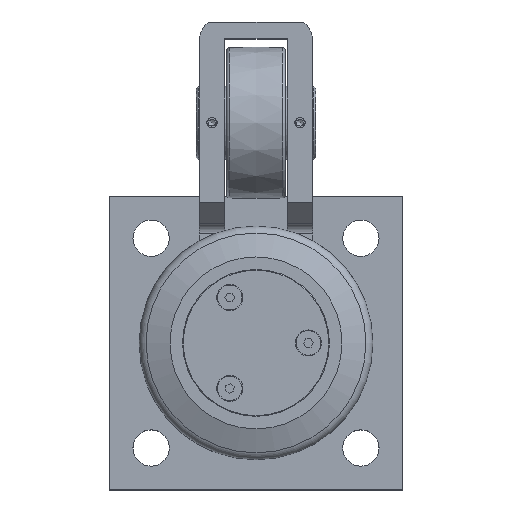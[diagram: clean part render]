
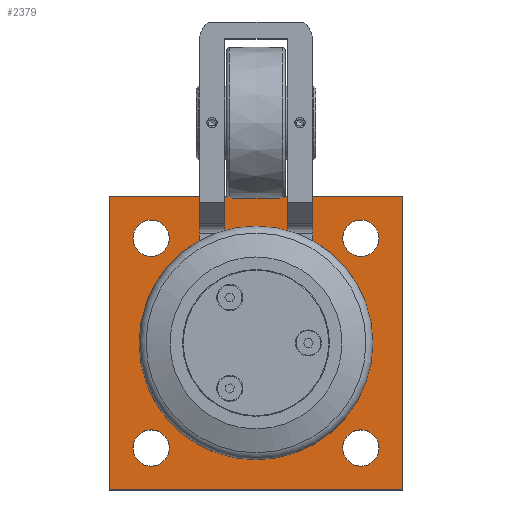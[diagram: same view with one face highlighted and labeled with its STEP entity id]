
A CAD part, top view. The second image highlights one B-rep face of the part: STEP entity #2379.
In plain terms, the highlighted planar face has unit normal (0, 0, 1).
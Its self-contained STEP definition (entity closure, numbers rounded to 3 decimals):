
#166=LINE('',#4013,#367);
#186=LINE('',#4067,#387);
#193=LINE('',#4081,#394);
#194=LINE('',#4083,#395);
#195=LINE('',#4084,#396);
#196=LINE('',#4103,#397);
#197=LINE('',#4105,#398);
#198=LINE('',#4107,#399);
#199=LINE('',#4108,#400);
#200=LINE('',#4110,#401);
#201=LINE('',#4112,#402);
#202=LINE('',#4113,#403);
#367=VECTOR('',#3165,10.);
#387=VECTOR('',#3213,10.);
#394=VECTOR('',#3222,10.);
#395=VECTOR('',#3223,10.);
#396=VECTOR('',#3224,10.);
#397=VECTOR('',#3241,10.);
#398=VECTOR('',#3242,10.);
#399=VECTOR('',#3243,10.);
#400=VECTOR('',#3244,10.);
#401=VECTOR('',#3245,10.);
#402=VECTOR('',#3246,10.);
#403=VECTOR('',#3247,10.);
#495=FACE_BOUND('',#838,.T.);
#496=FACE_BOUND('',#839,.T.);
#497=FACE_BOUND('',#840,.T.);
#498=FACE_BOUND('',#841,.T.);
#499=FACE_BOUND('',#842,.T.);
#500=FACE_BOUND('',#843,.T.);
#501=FACE_BOUND('',#844,.T.);
#573=PLANE('',#2624);
#691=FACE_OUTER_BOUND('',#837,.T.);
#837=EDGE_LOOP('',(#2060,#2061,#2062,#2063));
#838=EDGE_LOOP('',(#2064,#2065));
#839=EDGE_LOOP('',(#2066,#2067));
#840=EDGE_LOOP('',(#2068,#2069));
#841=EDGE_LOOP('',(#2070,#2071));
#842=EDGE_LOOP('',(#2072,#2073,#2074,#2075));
#843=EDGE_LOOP('',(#2076,#2077,#2078,#2079));
#844=EDGE_LOOP('',(#2080));
#983=CIRCLE('',#2625,8.647);
#984=CIRCLE('',#2626,8.647);
#985=CIRCLE('',#2627,8.647);
#986=CIRCLE('',#2628,8.647);
#987=CIRCLE('',#2629,8.647);
#988=CIRCLE('',#2630,8.647);
#989=CIRCLE('',#2631,8.647);
#990=CIRCLE('',#2632,8.647);
#991=CIRCLE('',#2633,35.);
#1171=VERTEX_POINT('',#4011);
#1172=VERTEX_POINT('',#4012);
#1191=VERTEX_POINT('',#4064);
#1192=VERTEX_POINT('',#4066);
#1198=VERTEX_POINT('',#4080);
#1199=VERTEX_POINT('',#4082);
#1200=VERTEX_POINT('',#4085);
#1201=VERTEX_POINT('',#4086);
#1202=VERTEX_POINT('',#4089);
#1203=VERTEX_POINT('',#4090);
#1204=VERTEX_POINT('',#4093);
#1205=VERTEX_POINT('',#4094);
#1206=VERTEX_POINT('',#4097);
#1207=VERTEX_POINT('',#4098);
#1208=VERTEX_POINT('',#4101);
#1209=VERTEX_POINT('',#4102);
#1210=VERTEX_POINT('',#4104);
#1211=VERTEX_POINT('',#4106);
#1212=VERTEX_POINT('',#4109);
#1213=VERTEX_POINT('',#4111);
#1214=VERTEX_POINT('',#4114);
#1471=EDGE_CURVE('',#1171,#1172,#166,.T.);
#1498=EDGE_CURVE('',#1191,#1192,#186,.T.);
#1505=EDGE_CURVE('',#1198,#1191,#193,.T.);
#1506=EDGE_CURVE('',#1199,#1198,#194,.T.);
#1507=EDGE_CURVE('',#1192,#1199,#195,.T.);
#1508=EDGE_CURVE('',#1200,#1201,#983,.T.);
#1509=EDGE_CURVE('',#1201,#1200,#984,.T.);
#1510=EDGE_CURVE('',#1202,#1203,#985,.T.);
#1511=EDGE_CURVE('',#1203,#1202,#986,.T.);
#1512=EDGE_CURVE('',#1204,#1205,#987,.T.);
#1513=EDGE_CURVE('',#1205,#1204,#988,.T.);
#1514=EDGE_CURVE('',#1206,#1207,#989,.T.);
#1515=EDGE_CURVE('',#1207,#1206,#990,.T.);
#1516=EDGE_CURVE('',#1208,#1209,#196,.T.);
#1517=EDGE_CURVE('',#1209,#1210,#197,.T.);
#1518=EDGE_CURVE('',#1210,#1211,#198,.T.);
#1519=EDGE_CURVE('',#1211,#1208,#199,.T.);
#1520=EDGE_CURVE('',#1212,#1171,#200,.T.);
#1521=EDGE_CURVE('',#1172,#1213,#201,.T.);
#1522=EDGE_CURVE('',#1213,#1212,#202,.T.);
#1523=EDGE_CURVE('',#1214,#1214,#991,.T.);
#2060=ORIENTED_EDGE('',*,*,#1505,.F.);
#2061=ORIENTED_EDGE('',*,*,#1506,.F.);
#2062=ORIENTED_EDGE('',*,*,#1507,.F.);
#2063=ORIENTED_EDGE('',*,*,#1498,.F.);
#2064=ORIENTED_EDGE('',*,*,#1508,.T.);
#2065=ORIENTED_EDGE('',*,*,#1509,.T.);
#2066=ORIENTED_EDGE('',*,*,#1510,.T.);
#2067=ORIENTED_EDGE('',*,*,#1511,.T.);
#2068=ORIENTED_EDGE('',*,*,#1512,.T.);
#2069=ORIENTED_EDGE('',*,*,#1513,.T.);
#2070=ORIENTED_EDGE('',*,*,#1514,.T.);
#2071=ORIENTED_EDGE('',*,*,#1515,.T.);
#2072=ORIENTED_EDGE('',*,*,#1516,.T.);
#2073=ORIENTED_EDGE('',*,*,#1517,.T.);
#2074=ORIENTED_EDGE('',*,*,#1518,.T.);
#2075=ORIENTED_EDGE('',*,*,#1519,.T.);
#2076=ORIENTED_EDGE('',*,*,#1520,.T.);
#2077=ORIENTED_EDGE('',*,*,#1471,.T.);
#2078=ORIENTED_EDGE('',*,*,#1521,.T.);
#2079=ORIENTED_EDGE('',*,*,#1522,.T.);
#2080=ORIENTED_EDGE('',*,*,#1523,.T.);
#2379=ADVANCED_FACE('',(#691,#495,#496,#497,#498,#499,#500,#501),#573,.T.);
#2624=AXIS2_PLACEMENT_3D('',#4079,#3220,#3221);
#2625=AXIS2_PLACEMENT_3D('',#4087,#3225,#3226);
#2626=AXIS2_PLACEMENT_3D('',#4088,#3227,#3228);
#2627=AXIS2_PLACEMENT_3D('',#4091,#3229,#3230);
#2628=AXIS2_PLACEMENT_3D('',#4092,#3231,#3232);
#2629=AXIS2_PLACEMENT_3D('',#4095,#3233,#3234);
#2630=AXIS2_PLACEMENT_3D('',#4096,#3235,#3236);
#2631=AXIS2_PLACEMENT_3D('',#4099,#3237,#3238);
#2632=AXIS2_PLACEMENT_3D('',#4100,#3239,#3240);
#2633=AXIS2_PLACEMENT_3D('',#4115,#3248,#3249);
#3165=DIRECTION('',(1.,0.,0.));
#3213=DIRECTION('',(1.,0.,0.));
#3220=DIRECTION('center_axis',(0.,0.,1.));
#3221=DIRECTION('ref_axis',(1.,0.,0.));
#3222=DIRECTION('',(0.,1.,0.));
#3223=DIRECTION('',(-1.,0.,0.));
#3224=DIRECTION('',(0.,-1.,0.));
#3225=DIRECTION('center_axis',(0.,0.,-1.));
#3226=DIRECTION('ref_axis',(1.,0.,0.));
#3227=DIRECTION('center_axis',(0.,0.,-1.));
#3228=DIRECTION('ref_axis',(1.,0.,0.));
#3229=DIRECTION('center_axis',(0.,0.,-1.));
#3230=DIRECTION('ref_axis',(1.,0.,0.));
#3231=DIRECTION('center_axis',(0.,0.,-1.));
#3232=DIRECTION('ref_axis',(1.,0.,0.));
#3233=DIRECTION('center_axis',(0.,0.,-1.));
#3234=DIRECTION('ref_axis',(1.,0.,0.));
#3235=DIRECTION('center_axis',(0.,0.,-1.));
#3236=DIRECTION('ref_axis',(1.,0.,0.));
#3237=DIRECTION('center_axis',(0.,0.,-1.));
#3238=DIRECTION('ref_axis',(1.,0.,0.));
#3239=DIRECTION('center_axis',(0.,0.,-1.));
#3240=DIRECTION('ref_axis',(1.,0.,0.));
#3241=DIRECTION('',(0.,1.,0.));
#3242=DIRECTION('',(1.,0.,0.));
#3243=DIRECTION('',(0.,-1.,0.));
#3244=DIRECTION('',(-1.,0.,0.));
#3245=DIRECTION('',(0.,1.,0.));
#3246=DIRECTION('',(0.,-1.,0.));
#3247=DIRECTION('',(-1.,0.,0.));
#3248=DIRECTION('center_axis',(0.,0.,-1.));
#3249=DIRECTION('ref_axis',(0.,-1.,0.));
#4011=CARTESIAN_POINT('',(-44.516,27.511,-15.));
#4012=CARTESIAN_POINT('',(-32.516,27.511,-15.));
#4013=CARTESIAN_POINT('',(-44.516,27.511,-15.));
#4064=CARTESIAN_POINT('',(-87.516,29.205,-15.));
#4066=CARTESIAN_POINT('',(52.484,29.205,-15.));
#4067=CARTESIAN_POINT('',(52.484,29.205,-15.));
#4079=CARTESIAN_POINT('Origin',(-17.516,-40.795,-15.));
#4080=CARTESIAN_POINT('',(-87.516,-110.795,-15.));
#4081=CARTESIAN_POINT('',(-87.516,29.205,-15.));
#4082=CARTESIAN_POINT('',(52.484,-110.795,-15.));
#4083=CARTESIAN_POINT('',(-87.516,-110.795,-15.));
#4084=CARTESIAN_POINT('',(52.484,-110.795,-15.));
#4085=CARTESIAN_POINT('',(-58.869,-90.795,-15.));
#4086=CARTESIAN_POINT('',(-76.163,-90.795,-15.));
#4087=CARTESIAN_POINT('Origin',(-67.516,-90.795,-15.));
#4088=CARTESIAN_POINT('Origin',(-67.516,-90.795,-15.));
#4089=CARTESIAN_POINT('',(41.131,-90.795,-15.));
#4090=CARTESIAN_POINT('',(23.837,-90.795,-15.));
#4091=CARTESIAN_POINT('Origin',(32.484,-90.795,-15.));
#4092=CARTESIAN_POINT('Origin',(32.484,-90.795,-15.));
#4093=CARTESIAN_POINT('',(41.131,9.205,-15.));
#4094=CARTESIAN_POINT('',(23.837,9.205,-15.));
#4095=CARTESIAN_POINT('Origin',(32.484,9.205,-15.));
#4096=CARTESIAN_POINT('Origin',(32.484,9.205,-15.));
#4097=CARTESIAN_POINT('',(-58.869,9.205,-15.));
#4098=CARTESIAN_POINT('',(-76.163,9.205,-15.));
#4099=CARTESIAN_POINT('Origin',(-67.516,9.205,-15.));
#4100=CARTESIAN_POINT('Origin',(-67.516,9.205,-15.));
#4101=CARTESIAN_POINT('',(-2.516,-6.295,-15.));
#4102=CARTESIAN_POINT('',(-2.516,27.511,-15.));
#4103=CARTESIAN_POINT('',(-2.516,-20.795,-15.));
#4104=CARTESIAN_POINT('',(9.484,27.511,-15.));
#4105=CARTESIAN_POINT('',(-2.516,27.511,-15.));
#4106=CARTESIAN_POINT('',(9.484,-6.295,-15.));
#4107=CARTESIAN_POINT('',(9.484,7.114,-15.));
#4108=CARTESIAN_POINT('',(-4.016,-6.295,-15.));
#4109=CARTESIAN_POINT('',(-44.516,-6.295,-15.));
#4110=CARTESIAN_POINT('',(-44.516,-20.795,-15.));
#4111=CARTESIAN_POINT('',(-32.516,-6.295,-15.));
#4112=CARTESIAN_POINT('',(-32.516,7.114,-15.));
#4113=CARTESIAN_POINT('',(-25.016,-6.295,-15.));
#4114=CARTESIAN_POINT('',(-17.516,-5.795,-15.));
#4115=CARTESIAN_POINT('Origin',(-17.516,-40.795,-15.));
